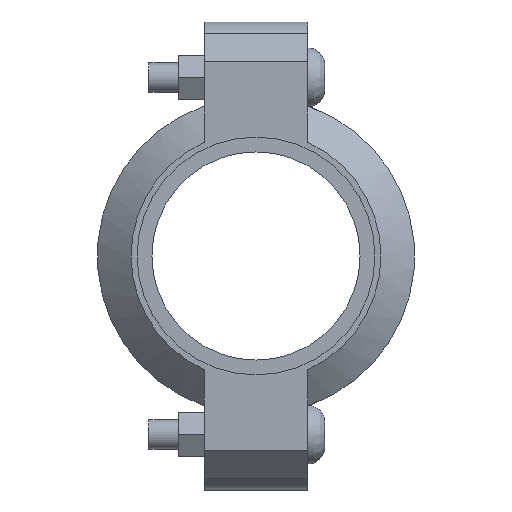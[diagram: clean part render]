
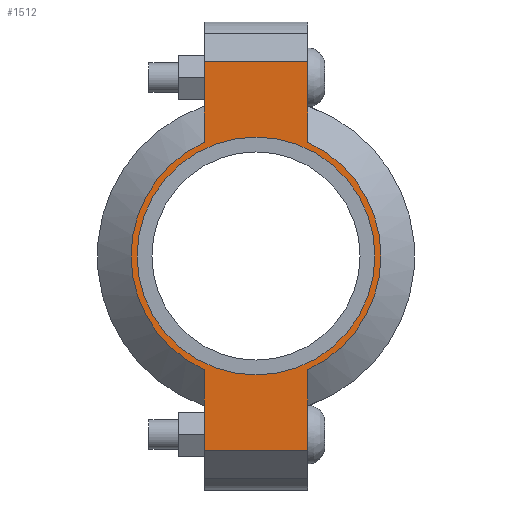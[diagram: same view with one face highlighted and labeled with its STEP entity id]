
A CAD part, left-side view. The second image highlights one B-rep face of the part: STEP entity #1512.
In plain terms, the highlighted planar face has unit normal (-1, 0, 0) as drawn and (0, 0, 1) by its records, which use the part's own axes.
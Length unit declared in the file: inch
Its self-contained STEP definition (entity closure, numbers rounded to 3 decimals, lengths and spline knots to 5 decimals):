
#118=LINE('',#2653,#213);
#131=LINE('',#2697,#226);
#136=LINE('',#2721,#231);
#143=LINE('',#2739,#238);
#150=LINE('',#2764,#245);
#151=LINE('',#2767,#246);
#213=VECTOR('',#2147,0.3937);
#226=VECTOR('',#2176,0.3937);
#231=VECTOR('',#2187,0.3937);
#238=VECTOR('',#2204,0.3937);
#245=VECTOR('',#2225,0.3937);
#246=VECTOR('',#2230,0.3937);
#298=FACE_BOUND('',#476,.T.);
#371=FACE_OUTER_BOUND('',#475,.T.);
#475=EDGE_LOOP('',(#1267,#1268,#1269,#1270,#1271,#1272,#1273,#1274));
#476=EDGE_LOOP('',(#1275));
#545=CIRCLE('',#1729,1.5);
#573=CIRCLE('',#1792,1.575);
#574=CIRCLE('',#1793,1.575);
#637=VERTEX_POINT('',#2441);
#680=VERTEX_POINT('',#2648);
#681=VERTEX_POINT('',#2652);
#697=VERTEX_POINT('',#2694);
#698=VERTEX_POINT('',#2696);
#704=VERTEX_POINT('',#2716);
#705=VERTEX_POINT('',#2720);
#710=VERTEX_POINT('',#2736);
#711=VERTEX_POINT('',#2738);
#795=EDGE_CURVE('',#637,#637,#545,.T.);
#857=EDGE_CURVE('',#681,#680,#118,.T.);
#877=EDGE_CURVE('',#698,#697,#131,.T.);
#886=EDGE_CURVE('',#705,#704,#136,.T.);
#895=EDGE_CURVE('',#711,#710,#143,.T.);
#907=EDGE_CURVE('',#705,#697,#150,.T.);
#908=EDGE_CURVE('',#704,#711,#573,.T.);
#909=EDGE_CURVE('',#681,#710,#151,.T.);
#910=EDGE_CURVE('',#680,#698,#574,.T.);
#1267=ORIENTED_EDGE('',*,*,#907,.F.);
#1268=ORIENTED_EDGE('',*,*,#886,.T.);
#1269=ORIENTED_EDGE('',*,*,#908,.T.);
#1270=ORIENTED_EDGE('',*,*,#895,.T.);
#1271=ORIENTED_EDGE('',*,*,#909,.F.);
#1272=ORIENTED_EDGE('',*,*,#857,.T.);
#1273=ORIENTED_EDGE('',*,*,#910,.T.);
#1274=ORIENTED_EDGE('',*,*,#877,.T.);
#1275=ORIENTED_EDGE('',*,*,#795,.T.);
#1353=PLANE('',#1791);
#1512=ADVANCED_FACE('',(#371,#298),#1353,.T.);
#1729=AXIS2_PLACEMENT_3D('',#2443,#2027,#2028);
#1791=AXIS2_PLACEMENT_3D('',#2765,#2226,#2227);
#1792=AXIS2_PLACEMENT_3D('',#2766,#2228,#2229);
#1793=AXIS2_PLACEMENT_3D('',#2768,#2231,#2232);
#2027=DIRECTION('center_axis',(0.,0.,-1.));
#2028=DIRECTION('ref_axis',(-1.,0.,0.));
#2147=DIRECTION('',(-1.,0.,0.));
#2176=DIRECTION('',(-1.,0.,0.));
#2187=DIRECTION('',(1.,0.,0.));
#2204=DIRECTION('',(1.,0.,0.));
#2225=DIRECTION('',(0.,1.,0.));
#2226=DIRECTION('center_axis',(0.,0.,1.));
#2227=DIRECTION('ref_axis',(1.,0.,0.));
#2228=DIRECTION('center_axis',(0.,0.,1.));
#2229=DIRECTION('ref_axis',(-1.,0.,0.));
#2230=DIRECTION('',(0.,-1.,0.));
#2231=DIRECTION('center_axis',(0.,0.,1.));
#2232=DIRECTION('ref_axis',(-1.,0.,0.));
#2441=CARTESIAN_POINT('',(1.5,0.,0.94));
#2443=CARTESIAN_POINT('Origin',(0.,0.,0.94));
#2648=CARTESIAN_POINT('',(1.43462,0.65,0.94));
#2652=CARTESIAN_POINT('',(2.45,0.65,0.94));
#2653=CARTESIAN_POINT('',(-2.95,0.65,0.94));
#2694=CARTESIAN_POINT('',(-2.45,0.65,0.94));
#2696=CARTESIAN_POINT('',(-1.43462,0.65,0.94));
#2697=CARTESIAN_POINT('',(-2.95,0.65,0.94));
#2716=CARTESIAN_POINT('',(-1.43462,-0.65,0.94));
#2720=CARTESIAN_POINT('',(-2.45,-0.65,0.94));
#2721=CARTESIAN_POINT('',(2.95,-0.65,0.94));
#2736=CARTESIAN_POINT('',(2.45,-0.65,0.94));
#2738=CARTESIAN_POINT('',(1.43462,-0.65,0.94));
#2739=CARTESIAN_POINT('',(2.95,-0.65,0.94));
#2764=CARTESIAN_POINT('',(-2.45,0.325,0.94));
#2765=CARTESIAN_POINT('Origin',(0.,0.,
0.94));
#2766=CARTESIAN_POINT('Origin',(0.,0.,0.94));
#2767=CARTESIAN_POINT('',(2.45,-0.325,0.94));
#2768=CARTESIAN_POINT('Origin',(0.,0.,0.94));
